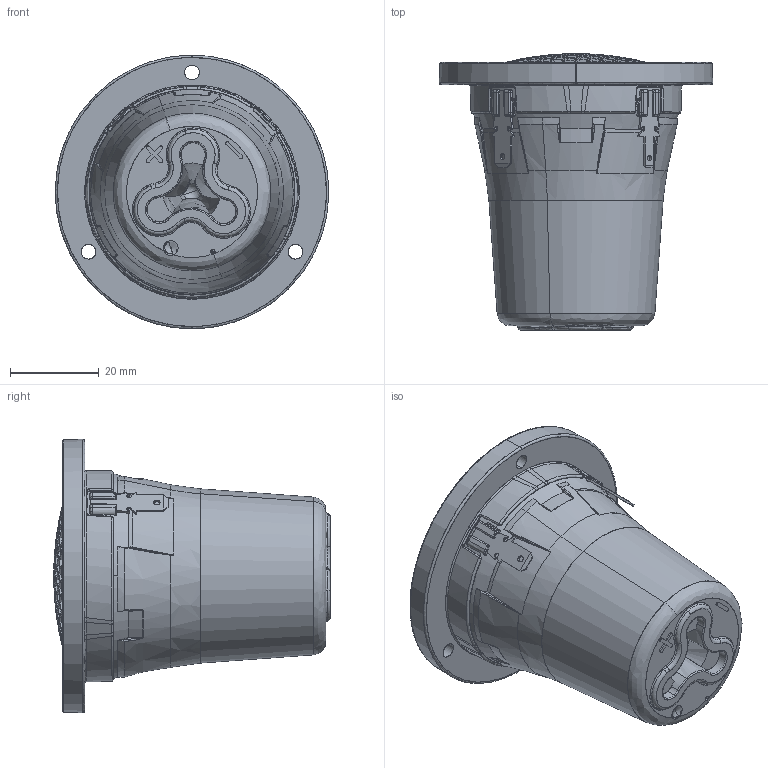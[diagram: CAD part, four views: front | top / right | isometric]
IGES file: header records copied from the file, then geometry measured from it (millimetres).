
Start section: SolidWorks IGES file using analytic representation for surfaces
Global section: file name: W:\TT\WEB 3D ENHEDER VER2\D3004_604010\D3004-604010.IGS; native system: SolidWorks 2019; preprocessor: SolidWorks 2019; author: mhn; date: 201029.082556; units: millimetre
Bounding box: 61.66 x 62.38 x 61.66 mm (x, y, z)
Surface area: 17762.5 mm2 (no closed solid volume)
Topology: 0 solids, 0 shells, 1741 faces, 14800 edges, 14776 vertices
Faces by surface type: bspline 1381, revolution 360
